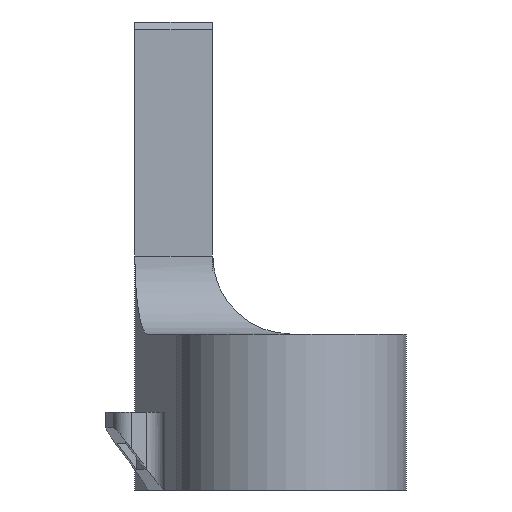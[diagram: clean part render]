
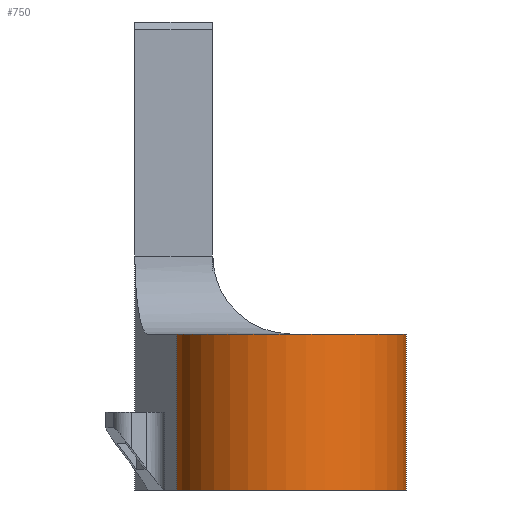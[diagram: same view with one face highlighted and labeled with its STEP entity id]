
A CAD part, left-side view. The second image highlights one B-rep face of the part: STEP entity #750.
In plain terms, the highlighted cylindrical face has radius 14.8 mm (diameter 29.6 mm), a partial arc.
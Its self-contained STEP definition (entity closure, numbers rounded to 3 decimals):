
#126=CYLINDRICAL_SURFACE('',#818,14.8);
#139=CIRCLE('',#794,14.8);
#151=CIRCLE('',#819,14.8);
#196=VERTEX_POINT('',#1124);
#198=VERTEX_POINT('',#1128);
#200=VERTEX_POINT('',#1136);
#214=VERTEX_POINT('',#1177);
#263=VECTOR('',#934,1.);
#269=VECTOR('',#987,1.);
#319=LINE('',#1129,#263);
#325=LINE('',#1176,#269);
#392=EDGE_CURVE('',#198,#196,#319,.T.);
#395=EDGE_CURVE('',#200,#196,#139,.T.);
#413=EDGE_CURVE('',#214,#200,#325,.T.);
#415=EDGE_CURVE('',#214,#198,#151,.T.);
#585=ORIENTED_EDGE('',*,*,#395,.T.);
#586=ORIENTED_EDGE('',*,*,#392,.F.);
#587=ORIENTED_EDGE('',*,*,#415,.F.);
#588=ORIENTED_EDGE('',*,*,#413,.T.);
#651=EDGE_LOOP('',(#585,#586,#587,#588));
#711=FACE_BOUND('',#651,.T.);
#750=ADVANCED_FACE('',(#711),#126,.T.);
#794=AXIS2_PLACEMENT_3D('',#1135,#939,#940);
#818=AXIS2_PLACEMENT_3D('',#1179,#989,#990);
#819=AXIS2_PLACEMENT_3D('',#1180,#991,#992);
#934=DIRECTION('',(0.,0.,-1.));
#939=DIRECTION('',(0.,0.,1.));
#940=DIRECTION('',(14.8,0.,0.));
#987=DIRECTION('',(0.,0.,-1.));
#989=DIRECTION('',(0.,0.,-1.));
#990=DIRECTION('',(14.8,0.,0.));
#991=DIRECTION('',(0.,0.,1.));
#992=DIRECTION('',(14.8,0.,0.));
#1124=CARTESIAN_POINT('',(-60.47,-30.466,-20.));
#1128=CARTESIAN_POINT('',(-60.47,-30.466,0.));
#1129=CARTESIAN_POINT('',(-60.47,-30.466,0.));
#1135=CARTESIAN_POINT('',(-70.934,-20.,-20.));
#1136=CARTESIAN_POINT('',(-73.299,-5.39,-20.));
#1176=CARTESIAN_POINT('',(-73.299,-5.39,0.));
#1177=CARTESIAN_POINT('',(-73.299,-5.39,0.));
#1179=CARTESIAN_POINT('',(-70.934,-20.,0.));
#1180=CARTESIAN_POINT('',(-70.934,-20.,0.));
